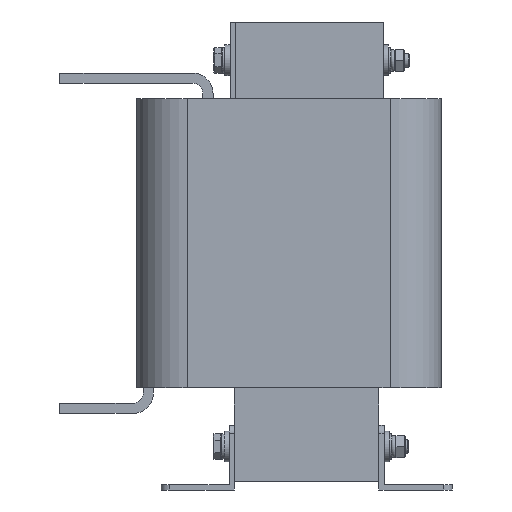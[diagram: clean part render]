
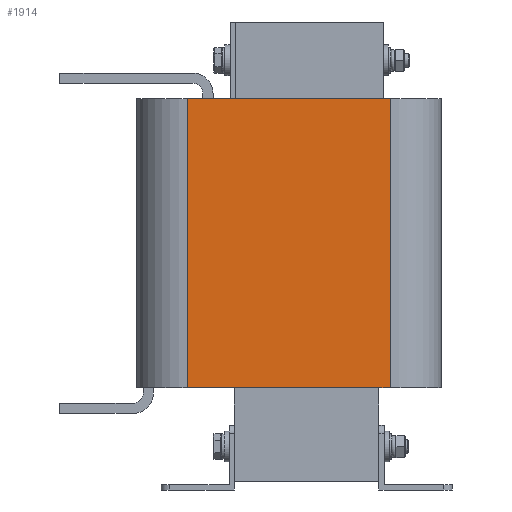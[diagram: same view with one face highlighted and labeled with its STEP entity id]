
A CAD part, left-side view. The second image highlights one B-rep face of the part: STEP entity #1914.
In plain terms, the highlighted planar face has unit normal (-1, 0, 0).
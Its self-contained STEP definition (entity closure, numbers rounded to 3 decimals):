
#1914=ADVANCED_FACE('',(#2328),#2330,.T.);
#2328=FACE_BOUND('',#2329,.T.);
#2329=EDGE_LOOP('',(#3366,#3367,#3368,#3369));
#2330=PLANE('',#2331);
#2331=AXIS2_PLACEMENT_3D('',#2332,#2333,#2334);
#2332=CARTESIAN_POINT('',(-45.,89.5,0.));
#2333=DIRECTION('',(-1.,0.,0.));
#2334=DIRECTION('',(0.,-1.,0.));
#3366=ORIENTED_EDGE('',*,*,#3936,.F.);
#3367=ORIENTED_EDGE('',*,*,#3937,.T.);
#3368=ORIENTED_EDGE('',*,*,#3938,.T.);
#3369=ORIENTED_EDGE('',*,*,#3939,.F.);
#3936=EDGE_CURVE('',#4331,#4332,#4333,.T.);
#3937=EDGE_CURVE('',#4331,#4334,#4335,.T.);
#3938=EDGE_CURVE('',#4334,#4336,#4337,.T.);
#3939=EDGE_CURVE('',#4332,#4336,#4338,.T.);
#4331=VERTEX_POINT('',#5093);
#4332=VERTEX_POINT('',#5094);
#4333=LINE('',#5095,#5096);
#4334=VERTEX_POINT('',#5098);
#4335=LINE('',#5099,#5100);
#4336=VERTEX_POINT('',#5102);
#4337=LINE('',#5103,#5104);
#4338=LINE('',#5106,#5107);
#5093=CARTESIAN_POINT('',(-45.,59.5,0.));
#5094=CARTESIAN_POINT('',(-45.,59.5,170.));
#5095=CARTESIAN_POINT('',(-45.,59.5,0.));
#5096=VECTOR('',#5097,1.);
#5097=DIRECTION('',(0.,0.,1.));
#5098=CARTESIAN_POINT('',(-45.,-59.5,0.));
#5099=CARTESIAN_POINT('',(-45.,59.5,0.));
#5100=VECTOR('',#5101,1.);
#5101=DIRECTION('',(0.,-1.,0.));
#5102=CARTESIAN_POINT('',(-45.,-59.5,170.));
#5103=CARTESIAN_POINT('',(-45.,-59.5,0.));
#5104=VECTOR('',#5105,1.);
#5105=DIRECTION('',(0.,0.,1.));
#5106=CARTESIAN_POINT('',(-45.,59.5,170.));
#5107=VECTOR('',#5108,1.);
#5108=DIRECTION('',(0.,-1.,0.));
